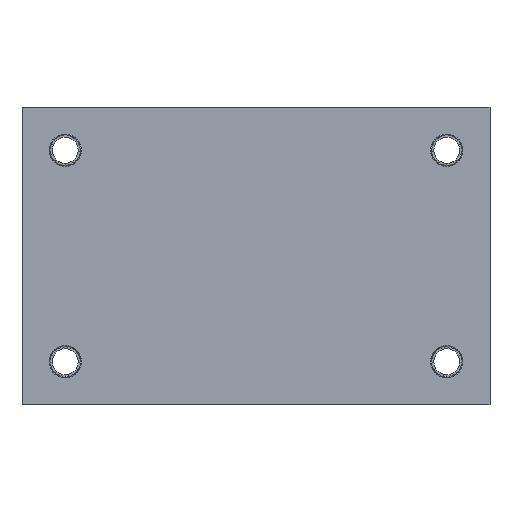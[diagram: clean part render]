
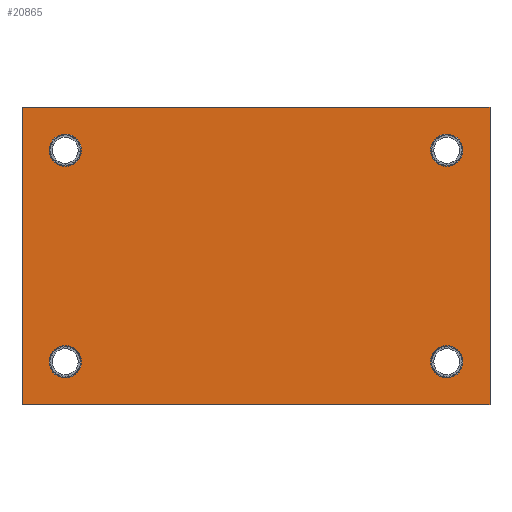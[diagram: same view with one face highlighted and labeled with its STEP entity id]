
A CAD part, front view. The second image highlights one B-rep face of the part: STEP entity #20865.
In plain terms, the highlighted planar face has unit normal (0, -1, 0) as drawn and (0, 1, 0) by its records, which use the part's own axes.
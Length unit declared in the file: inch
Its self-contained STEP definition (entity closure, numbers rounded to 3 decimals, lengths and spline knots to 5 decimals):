
#450 = EDGE_CURVE ( 'NONE', #20682, #22256, #10459, .T. ) ;
#600 = VERTEX_POINT ( 'NONE', #2741 ) ;
#1318 = VERTEX_POINT ( 'NONE', #12574 ) ;
#1403 = EDGE_CURVE ( 'NONE', #23694, #1318, #21326, .T. ) ;
#1548 = EDGE_CURVE ( 'NONE', #4817, #25022, #12584, .T. ) ;
#1740 = DIRECTION ( 'NONE',  ( 0., -1., 0. ) ) ;
#1859 = DIRECTION ( 'NONE',  ( 0., 0., 1. ) ) ;
#1957 = EDGE_CURVE ( 'NONE', #5411, #9670, #4651, .T. ) ;
#2314 = DIRECTION ( 'NONE',  ( 0., 0., -1. ) ) ;
#2348 = CIRCLE ( 'NONE', #13603, 0.07874 ) ;
#2400 = DIRECTION ( 'NONE',  ( 0., -1., 0. ) ) ;
#2741 = CARTESIAN_POINT ( 'NONE',  ( -0.92913, 0.03937, -0.5937 ) ) ;
#2834 = AXIS2_PLACEMENT_3D ( 'NONE', #21266, #3380, #17343 ) ;
#2999 = CARTESIAN_POINT ( 'NONE',  ( 1.13976, 0.03937, -0.72441 ) ) ;
#3066 = CIRCLE ( 'NONE', #13127, 0.07874 ) ;
#3111 = VERTEX_POINT ( 'NONE', #19973 ) ;
#3114 = DIRECTION ( 'NONE',  ( 0., 0., 1. ) ) ;
#3380 = DIRECTION ( 'NONE',  ( 0., 1., 0. ) ) ;
#3457 = VECTOR ( 'NONE', #24009, 39.37008 ) ;
#3576 = ORIENTED_EDGE ( 'NONE', *, *, #1403, .T. ) ;
#3633 = CIRCLE ( 'NONE', #4035, 0.07874 ) ;
#3646 = CARTESIAN_POINT ( 'NONE',  ( -1.13976, 0.03937, -0.72441 ) ) ;
#4035 = AXIS2_PLACEMENT_3D ( 'NONE', #5760, #13453, #11512 ) ;
#4235 = VECTOR ( 'NONE', #8328, 39.37008 ) ;
#4381 = LINE ( 'NONE', #17965, #6869 ) ;
#4461 = DIRECTION ( 'NONE',  ( 0., 0., 1. ) ) ;
#4570 = ORIENTED_EDGE ( 'NONE', *, *, #7982, .T. ) ;
#4651 = LINE ( 'NONE', #20583, #4235 ) ;
#4817 = VERTEX_POINT ( 'NONE', #8902 ) ;
#4983 = EDGE_LOOP ( 'NONE', ( #4570, #20700 ) ) ;
#5210 = FACE_BOUND ( 'NONE', #5371, .T. ) ;
#5371 = EDGE_LOOP ( 'NONE', ( #18807, #17657 ) ) ;
#5411 = VERTEX_POINT ( 'NONE', #13874 ) ;
#5644 = CARTESIAN_POINT ( 'NONE',  ( 0.92913, 0.03937, -0.51496 ) ) ;
#5758 = ORIENTED_EDGE ( 'NONE', *, *, #14817, .T. ) ;
#5760 = CARTESIAN_POINT ( 'NONE',  ( -0.92913, 0.03937, -0.51496 ) ) ;
#6259 = DIRECTION ( 'NONE',  ( 0., -1., 0. ) ) ;
#6398 = CARTESIAN_POINT ( 'NONE',  ( -0.92913, 0.03937, -0.51496 ) ) ;
#6869 = VECTOR ( 'NONE', #2314, 39.37008 ) ;
#7686 = DIRECTION ( 'NONE',  ( -1., 0., 0. ) ) ;
#7982 = EDGE_CURVE ( 'NONE', #22256, #20682, #16541, .T. ) ;
#8328 = DIRECTION ( 'NONE',  ( 1., 0., 0. ) ) ;
#8628 = DIRECTION ( 'NONE',  ( 0., 0., 1. ) ) ;
#8643 = CARTESIAN_POINT ( 'NONE',  ( 1.13976, 0.03937, 0.72441 ) ) ;
#8902 = CARTESIAN_POINT ( 'NONE',  ( 0.92913, 0.03937, 0.43622 ) ) ;
#9253 = FACE_BOUND ( 'NONE', #20675, .T. ) ;
#9260 = ORIENTED_EDGE ( 'NONE', *, *, #24600, .T. ) ;
#9670 = VERTEX_POINT ( 'NONE', #8643 ) ;
#9918 = EDGE_CURVE ( 'NONE', #16508, #5411, #19579, .T. ) ;
#9930 = CARTESIAN_POINT ( 'NONE',  ( 0.92913, 0.03937, 0.5937 ) ) ;
#10459 = CIRCLE ( 'NONE', #25066, 0.07874 ) ;
#11087 = FACE_BOUND ( 'NONE', #14166, .T. ) ;
#11201 = ORIENTED_EDGE ( 'NONE', *, *, #1957, .T. ) ;
#11223 = FACE_BOUND ( 'NONE', #4983, .T. ) ;
#11512 = DIRECTION ( 'NONE',  ( 0., 0., 1. ) ) ;
#11543 = DIRECTION ( 'NONE',  ( 0., 0., 1. ) ) ;
#12147 = DIRECTION ( 'NONE',  ( 0., -1., 0. ) ) ;
#12431 = ORIENTED_EDGE ( 'NONE', *, *, #9918, .T. ) ;
#12574 = CARTESIAN_POINT ( 'NONE',  ( -0.92913, 0.03937, 0.43622 ) ) ;
#12584 = CIRCLE ( 'NONE', #20076, 0.07874 ) ;
#12988 = AXIS2_PLACEMENT_3D ( 'NONE', #14814, #25133, #21209 ) ;
#13127 = AXIS2_PLACEMENT_3D ( 'NONE', #6398, #14363, #8628 ) ;
#13140 = VECTOR ( 'NONE', #7686, 39.37008 ) ;
#13453 = DIRECTION ( 'NONE',  ( 0., -1., 0. ) ) ;
#13493 = EDGE_CURVE ( 'NONE', #3111, #600, #3066, .T. ) ;
#13573 = CARTESIAN_POINT ( 'NONE',  ( -1.13976, 0.03937, 0.72441 ) ) ;
#13603 = AXIS2_PLACEMENT_3D ( 'NONE', #24450, #2400, #4461 ) ;
#13855 = ORIENTED_EDGE ( 'NONE', *, *, #1548, .T. ) ;
#13874 = CARTESIAN_POINT ( 'NONE',  ( -1.13976, 0.03937, 0.72441 ) ) ;
#13984 = CARTESIAN_POINT ( 'NONE',  ( 0.92913, 0.03937, -0.51496 ) ) ;
#14166 = EDGE_LOOP ( 'NONE', ( #5758, #13855 ) ) ;
#14363 = DIRECTION ( 'NONE',  ( 0., -1., 0. ) ) ;
#14728 = CARTESIAN_POINT ( 'NONE',  ( 0.92913, 0.03937, 0.51496 ) ) ;
#14814 = CARTESIAN_POINT ( 'NONE',  ( -0.92913, 0.03937, 0.51496 ) ) ;
#14817 = EDGE_CURVE ( 'NONE', #25022, #4817, #21443, .T. ) ;
#15056 = EDGE_CURVE ( 'NONE', #9670, #22410, #4381, .T. ) ;
#15184 = CARTESIAN_POINT ( 'NONE',  ( -1.13976, 0.03937, -0.72441 ) ) ;
#15262 = PLANE ( 'NONE',  #2834 ) ;
#15937 = EDGE_CURVE ( 'NONE', #22410, #16508, #19560, .T. ) ;
#16508 = VERTEX_POINT ( 'NONE', #15184 ) ;
#16541 = CIRCLE ( 'NONE', #23647, 0.07874 ) ;
#17343 = DIRECTION ( 'NONE',  ( 0., 0., 1. ) ) ;
#17657 = ORIENTED_EDGE ( 'NONE', *, *, #25004, .T. ) ;
#17965 = CARTESIAN_POINT ( 'NONE',  ( 1.13976, 0.03937, 0.72441 ) ) ;
#18139 = CARTESIAN_POINT ( 'NONE',  ( 0.92913, 0.03937, 0.51496 ) ) ;
#18807 = ORIENTED_EDGE ( 'NONE', *, *, #13493, .T. ) ;
#19085 = EDGE_LOOP ( 'NONE', ( #24384, #21387, #12431, #11201 ) ) ;
#19099 = DIRECTION ( 'NONE',  ( 0., 0., 1. ) ) ;
#19560 = LINE ( 'NONE', #3646, #13140 ) ;
#19579 = LINE ( 'NONE', #13573, #3457 ) ;
#19973 = CARTESIAN_POINT ( 'NONE',  ( -0.92913, 0.03937, -0.43622 ) ) ;
#20076 = AXIS2_PLACEMENT_3D ( 'NONE', #18139, #6259, #11543 ) ;
#20583 = CARTESIAN_POINT ( 'NONE',  ( -1.13976, 0.03937, 0.72441 ) ) ;
#20675 = EDGE_LOOP ( 'NONE', ( #3576, #9260 ) ) ;
#20682 = VERTEX_POINT ( 'NONE', #24543 ) ;
#20700 = ORIENTED_EDGE ( 'NONE', *, *, #450, .T. ) ;
#20794 = CARTESIAN_POINT ( 'NONE',  ( -0.92913, 0.03937, 0.5937 ) ) ;
#20865 = ADVANCED_FACE ( 'NONE', ( #11087, #23097, #5210, #11223, #9253 ), #15262, .T. ) ;
#21209 = DIRECTION ( 'NONE',  ( 0., 0., 1. ) ) ;
#21266 = CARTESIAN_POINT ( 'NONE',  ( -1.13976, 0.03937, 0.72441 ) ) ;
#21326 = CIRCLE ( 'NONE', #12988, 0.07874 ) ;
#21387 = ORIENTED_EDGE ( 'NONE', *, *, #15937, .T. ) ;
#21443 = CIRCLE ( 'NONE', #22279, 0.07874 ) ;
#22256 = VERTEX_POINT ( 'NONE', #24549 ) ;
#22279 = AXIS2_PLACEMENT_3D ( 'NONE', #14728, #22699, #3114 ) ;
#22410 = VERTEX_POINT ( 'NONE', #2999 ) ;
#22699 = DIRECTION ( 'NONE',  ( 0., -1., 0. ) ) ;
#23097 = FACE_OUTER_BOUND ( 'NONE', #19085, .T. ) ;
#23647 = AXIS2_PLACEMENT_3D ( 'NONE', #13984, #12147, #1859 ) ;
#23694 = VERTEX_POINT ( 'NONE', #20794 ) ;
#24009 = DIRECTION ( 'NONE',  ( 0., 0., 1. ) ) ;
#24384 = ORIENTED_EDGE ( 'NONE', *, *, #15056, .T. ) ;
#24450 = CARTESIAN_POINT ( 'NONE',  ( -0.92913, 0.03937, 0.51496 ) ) ;
#24543 = CARTESIAN_POINT ( 'NONE',  ( 0.92913, 0.03937, -0.5937 ) ) ;
#24549 = CARTESIAN_POINT ( 'NONE',  ( 0.92913, 0.03937, -0.43622 ) ) ;
#24600 = EDGE_CURVE ( 'NONE', #1318, #23694, #2348, .T. ) ;
#25004 = EDGE_CURVE ( 'NONE', #600, #3111, #3633, .T. ) ;
#25022 = VERTEX_POINT ( 'NONE', #9930 ) ;
#25066 = AXIS2_PLACEMENT_3D ( 'NONE', #5644, #1740, #19099 ) ;
#25133 = DIRECTION ( 'NONE',  ( 0., -1., 0. ) ) ;
